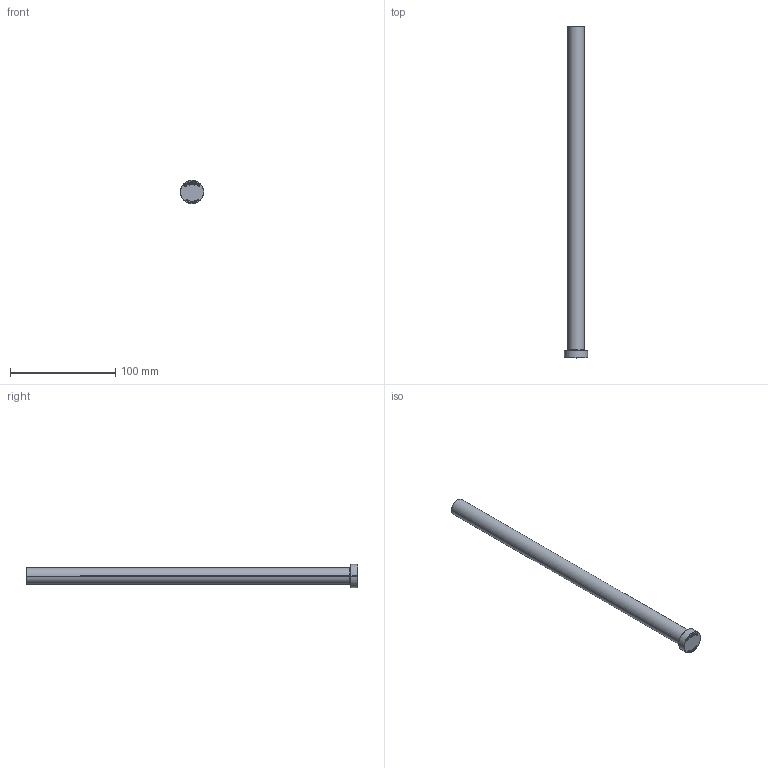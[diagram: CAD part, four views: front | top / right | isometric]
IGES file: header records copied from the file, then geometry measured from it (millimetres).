
Start section: SolidWorks IGES file using analytic representation for surfaces
Global section: file name: C:\Users\User\Downloads\Matripeça 31-08 tar\PB - PINO EXTRATOR TIPO _B_ (CATÁLOGO)\PB16,0\PB16,0315.IGS; native system: SolidWorks 2024; preprocessor: SolidWorks 2024; author: User; date: 260901.155158; units: millimetre
Bounding box: 22 x 315 x 22 mm (x, y, z)
Surface area: 16725.7 mm2 (no closed solid volume)
Topology: 0 solids, 0 shells, 402 faces, 4150 edges, 4150 vertices
Faces by surface type: bspline 388, revolution 14
